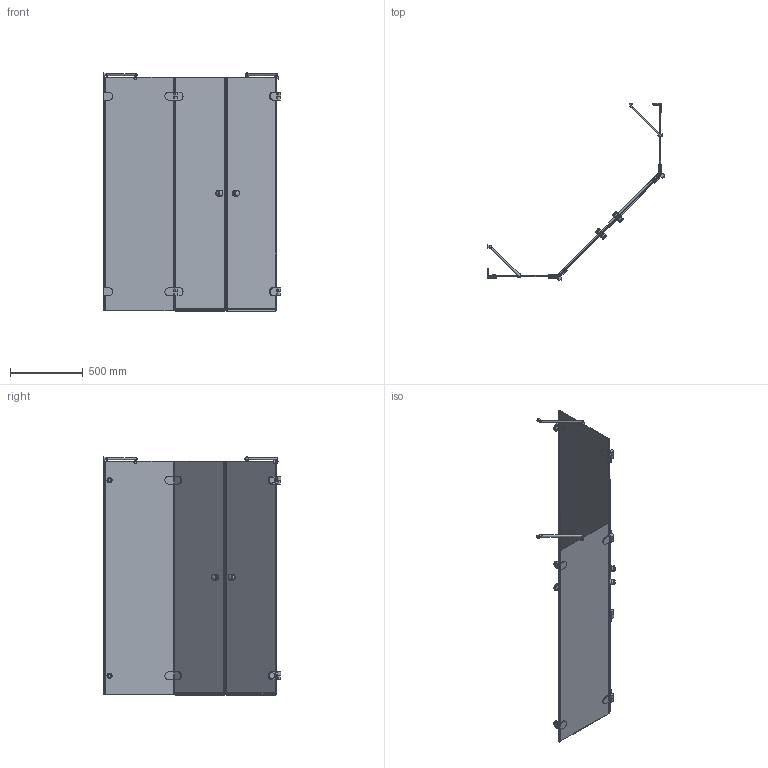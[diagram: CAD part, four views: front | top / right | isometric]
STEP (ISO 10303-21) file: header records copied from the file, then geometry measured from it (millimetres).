
FILE_DESCRIPTION(/* description */ (''),/* implementation_level */ '2;1');
FILE_NAME(/* name */ 'E:\Работа\Сергей\Душевые кабинки\! Работа\!!!\LUX PART GV-004-135\LUX PART GV-004-135-3D.stp',/* time_stamp */ '2018-06-30T07:33:03+03:00',/* author */ ('PC'),/* organization */ (''),/* preprocessor_version */ 'ST-DEVELOPER v15.2',/* originating_system */ 'Autodesk Inventor 2014',/* authorisation */ '');
FILE_SCHEMA (('CONFIG_CONTROL_DESIGN'));
Length unit declared in the file: millimetre
Products named in the file (1): LUX PART GV-004-135-3D
Bounding box: 1216.31 x 1216.31 x 1633.9 mm (x, y, z)
Volume: 20183000.9 mm3; surface area: 6813856.4 mm2
Topology: 12 solids, 12 shells, 606 faces, 1598 edges, 1060 vertices
Faces by surface type: plane 378, cylinder 186, torus 14, sphere 12, bspline 12, cone 4
Full cylindrical faces by diameter (mm): 12 x2, 15 x2, 20 x4, 26 x2, 30 x4, 35 x4, 38 x8, 40 x4
Entity records: 19493 total; most frequent: CARTESIAN_POINT 3843, DIRECTION 3116, ORIENTED_EDGE 3040, EDGE_CURVE 1520, LINE 1042, VECTOR 1042, AXIS2_PLACEMENT_3D 1037, VERTEX_POINT 1036
